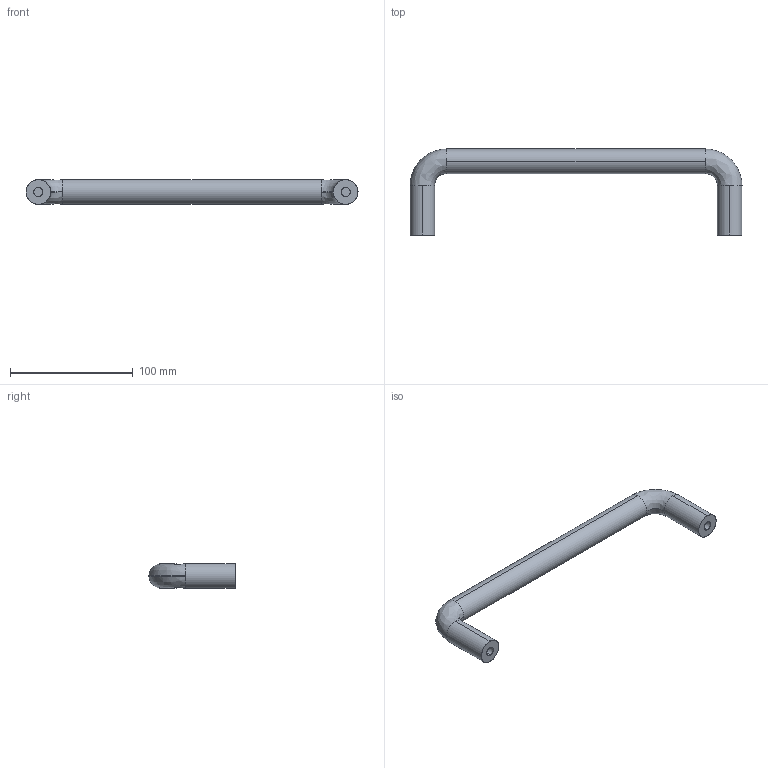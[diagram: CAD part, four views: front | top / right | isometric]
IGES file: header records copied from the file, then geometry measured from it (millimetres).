
Start section: SolidWorks IGES file using analytic representation for surfaces
Global section: file name: D:\由鑫國際內部資料\內部資料\3D圖檔\MS-749\P=250.IGS,15HSolidWorks; native system: 2008; preprocessor: SolidWorks 2008; author: Administrator; date: 091201.112742; units: millimetre
Bounding box: 270 x 70 x 20 mm (x, y, z)
Surface area: 23507.5 mm2 (no closed solid volume)
Topology: 0 solids, 0 shells, 18 faces, 264 edges, 264 vertices
Faces by surface type: revolution 10, bspline 8
